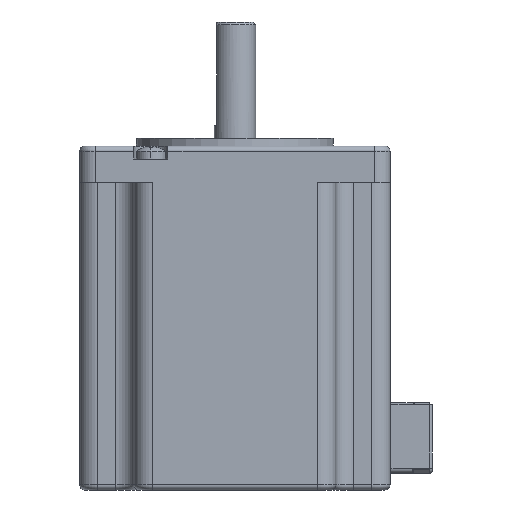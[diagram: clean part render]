
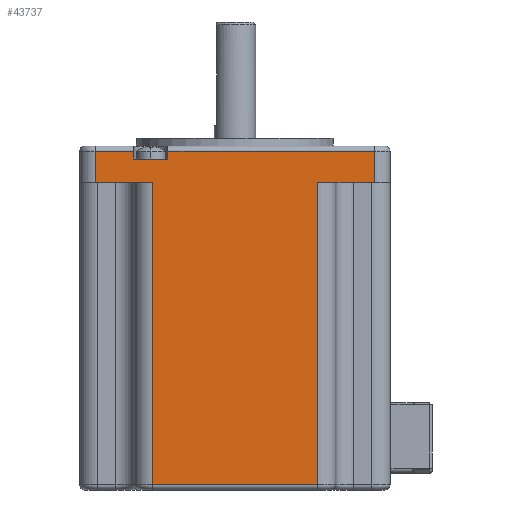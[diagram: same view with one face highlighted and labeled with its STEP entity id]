
A CAD part, left-side view. The second image highlights one B-rep face of the part: STEP entity #43737.
In plain terms, the highlighted planar face has unit normal (-1, 0, 0).
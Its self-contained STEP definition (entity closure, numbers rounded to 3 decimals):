
#1545=DIRECTION('',(0.,0.,1.));
#1546=VECTOR('',#1545,6.);
#1547=CARTESIAN_POINT('',(-30.,27.,59.5));
#1548=LINE('',#1547,#1546);
#1549=DIRECTION('',(0.,-1.,0.));
#1550=VECTOR('',#1549,7.45);
#1551=CARTESIAN_POINT('',(-30.,27.,65.5));
#1552=LINE('',#1551,#1550);
#1553=DIRECTION('',(0.,0.,-1.));
#1554=VECTOR('',#1553,1.5);
#1555=CARTESIAN_POINT('',(-30.,19.55,65.5));
#1556=LINE('',#1555,#1554);
#1557=DIRECTION('',(0.,1.,0.));
#1558=VECTOR('',#1557,6.6);
#1559=CARTESIAN_POINT('',(-30.,12.95,64.));
#1560=LINE('',#1559,#1558);
#1561=DIRECTION('',(0.,0.,-1.));
#1562=VECTOR('',#1561,1.5);
#1563=CARTESIAN_POINT('',(-30.,12.95,65.5));
#1564=LINE('',#1563,#1562);
#1565=DIRECTION('',(0.,-1.,0.));
#1566=VECTOR('',#1565,39.95);
#1567=CARTESIAN_POINT('',(-30.,12.95,65.5));
#1568=LINE('',#1567,#1566);
#1569=DIRECTION('',(0.,0.,1.));
#1570=VECTOR('',#1569,6.);
#1571=CARTESIAN_POINT('',(-30.,-27.,59.5));
#1572=LINE('',#1571,#1570);
#1573=DIRECTION('',(0.,1.,0.));
#1574=VECTOR('',#1573,32.);
#1575=CARTESIAN_POINT('',(-30.,-16.,1.));
#1576=LINE('',#1575,#1574);
#1586=DIRECTION('',(0.,0.,-1.));
#1587=VECTOR('',#1586,58.5);
#1588=CARTESIAN_POINT('',(-30.,16.,59.5));
#1589=LINE('',#1588,#1587);
#1899=DIRECTION('',(0.,0.,1.));
#1900=VECTOR('',#1899,58.5);
#1901=CARTESIAN_POINT('',(-30.,-16.,1.));
#1902=LINE('',#1901,#1900);
#1921=DIRECTION('',(0.,-1.,0.));
#1922=VECTOR('',#1921,11.);
#1923=CARTESIAN_POINT('',(-30.,-16.,59.5));
#1924=LINE('',#1923,#1922);
#27488=DIRECTION('',(0.,-1.,0.));
#27489=VECTOR('',#27488,11.);
#27490=CARTESIAN_POINT('',(-30.,27.,59.5));
#27491=LINE('',#27490,#27489);
#33094=CARTESIAN_POINT('',(-30.,-16.,1.));
#33095=VERTEX_POINT('',#33094);
#33098=CARTESIAN_POINT('',(-30.,16.,1.));
#33099=VERTEX_POINT('',#33098);
#40695=CARTESIAN_POINT('',(-30.,27.,59.5));
#40697=VERTEX_POINT('',#40695);
#40698=CARTESIAN_POINT('',(-30.,-27.,59.5));
#40700=VERTEX_POINT('',#40698);
#40732=CARTESIAN_POINT('',(-30.,16.,59.5));
#40733=VERTEX_POINT('',#40732);
#40734=CARTESIAN_POINT('',(-30.,-16.,59.5));
#40735=VERTEX_POINT('',#40734);
#40822=CARTESIAN_POINT('',(-30.,12.95,64.));
#40823=CARTESIAN_POINT('',(-30.,19.55,64.));
#40824=VERTEX_POINT('',#40822);
#40825=VERTEX_POINT('',#40823);
#40895=CARTESIAN_POINT('',(-30.,19.55,65.5));
#40897=VERTEX_POINT('',#40895);
#40898=CARTESIAN_POINT('',(-30.,27.,65.5));
#40899=VERTEX_POINT('',#40898);
#40920=CARTESIAN_POINT('',(-30.,-27.,65.5));
#40921=VERTEX_POINT('',#40920);
#40922=CARTESIAN_POINT('',(-30.,12.95,65.5));
#40924=VERTEX_POINT('',#40922);
#43712=CARTESIAN_POINT('',(-30.,30.,0.));
#43713=DIRECTION('',(-1.,0.,0.));
#43714=DIRECTION('',(0.,-1.,0.));
#43715=AXIS2_PLACEMENT_3D('',#43712,#43713,#43714);
#43716=PLANE('',#43715);
#43718=ORIENTED_EDGE('',*,*,#43717,.F.);
#43720=ORIENTED_EDGE('',*,*,#43719,.F.);
#43721=ORIENTED_EDGE('',*,*,#43703,.T.);
#43722=ORIENTED_EDGE('',*,*,#43276,.T.);
#43723=ORIENTED_EDGE('',*,*,#43295,.T.);
#43724=ORIENTED_EDGE('',*,*,#43322,.F.);
#43725=ORIENTED_EDGE('',*,*,#43341,.F.);
#43726=ORIENTED_EDGE('',*,*,#43358,.T.);
#43728=ORIENTED_EDGE('',*,*,#43727,.F.);
#43730=ORIENTED_EDGE('',*,*,#43729,.F.);
#43732=ORIENTED_EDGE('',*,*,#43731,.F.);
#43734=ORIENTED_EDGE('',*,*,#43733,.T.);
#43735=EDGE_LOOP('',(#43718,#43720,#43721,#43722,#43723,#43724,#43725,#43726,
#43728,#43730,#43732,#43734));
#43736=FACE_OUTER_BOUND('',#43735,.F.);
#43737=ADVANCED_FACE('',(#43736),#43716,.T.);
#43276=EDGE_CURVE('',#40899,#40897,#1552,.T.);
#43295=EDGE_CURVE('',#40897,#40825,#1556,.T.);
#43322=EDGE_CURVE('',#40824,#40825,#1560,.T.);
#43341=EDGE_CURVE('',#40924,#40824,#1564,.T.);
#43358=EDGE_CURVE('',#40924,#40921,#1568,.T.);
#43703=EDGE_CURVE('',#40697,#40899,#1548,.T.);
#43717=EDGE_CURVE('',#40733,#33099,#1589,.T.);
#43719=EDGE_CURVE('',#40697,#40733,#27491,.T.);
#43727=EDGE_CURVE('',#40700,#40921,#1572,.T.);
#43729=EDGE_CURVE('',#40735,#40700,#1924,.T.);
#43731=EDGE_CURVE('',#33095,#40735,#1902,.T.);
#43733=EDGE_CURVE('',#33095,#33099,#1576,.T.);
